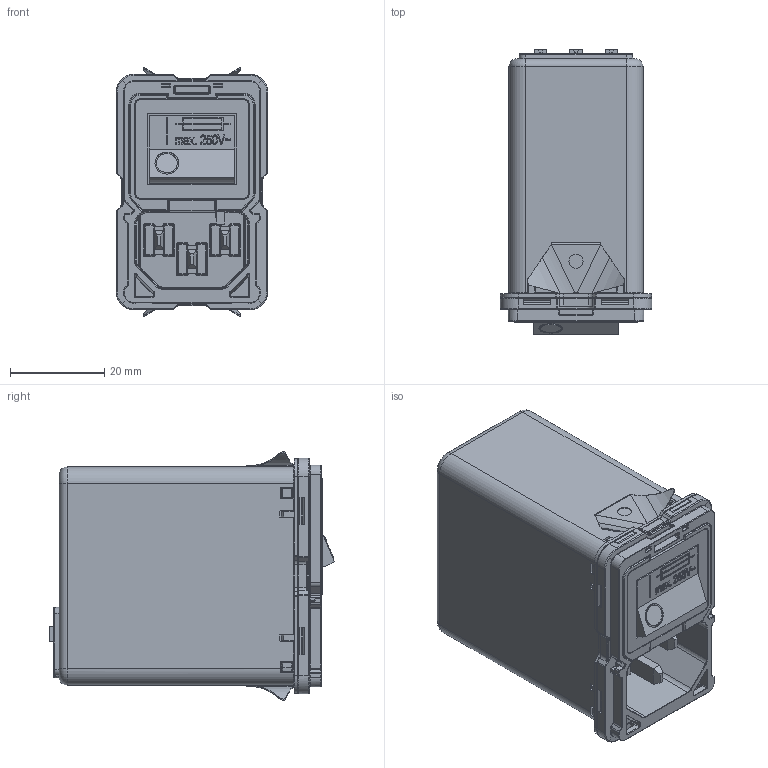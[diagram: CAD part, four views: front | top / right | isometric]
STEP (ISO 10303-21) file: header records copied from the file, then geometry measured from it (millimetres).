
FILE_DESCRIPTION((''),'2;1');
FILE_NAME('H:\02_Projects\A_Others\Z_Support\Luis\Cherry_STP\Step_Files\1 Stage\1_stage_spring_cage_vertical_snap.stp','2012-07-26T15:12:38',('Samuel.Meier'),(''),'Autodesk Inventor 2010','Autodesk Inventor 2010','');
FILE_SCHEMA(('AUTOMOTIVE_DESIGN { 1 2 10303 214 0 1 1 1 }'));
Length unit declared in the file: millimetre
Products named in the file (1): 1_stage_spring_cage_vertical_snap
Bounding box: 32.1 x 60.34 x 52.7 mm (x, y, z)
Surface area: 35851.2 mm2 (no closed solid volume)
Topology: 0 solids, 22 shells, 2928 faces, 7704 edges, 4755 vertices
Faces by surface type: plane 1233, cylinder 1045, bspline 460, sphere 91, torus 75, cone 24
Full cylindrical faces by diameter (mm): 0.8 x4, 1 x2, 1.1 x10, 1.2 x4, 2.7 x1, 3 x2, 3.6 x1, 4 x2, 6.5 x1, 7.2 x1, 8.2 x1
Entity records: 99449 total; most frequent: CARTESIAN_POINT 25623, ORIENTED_EDGE 15164, DIRECTION 14492, EDGE_CURVE 7582, AXIS2_PLACEMENT_3D 5025, VERTEX_POINT 4749, VECTOR 4442, LINE 4442
